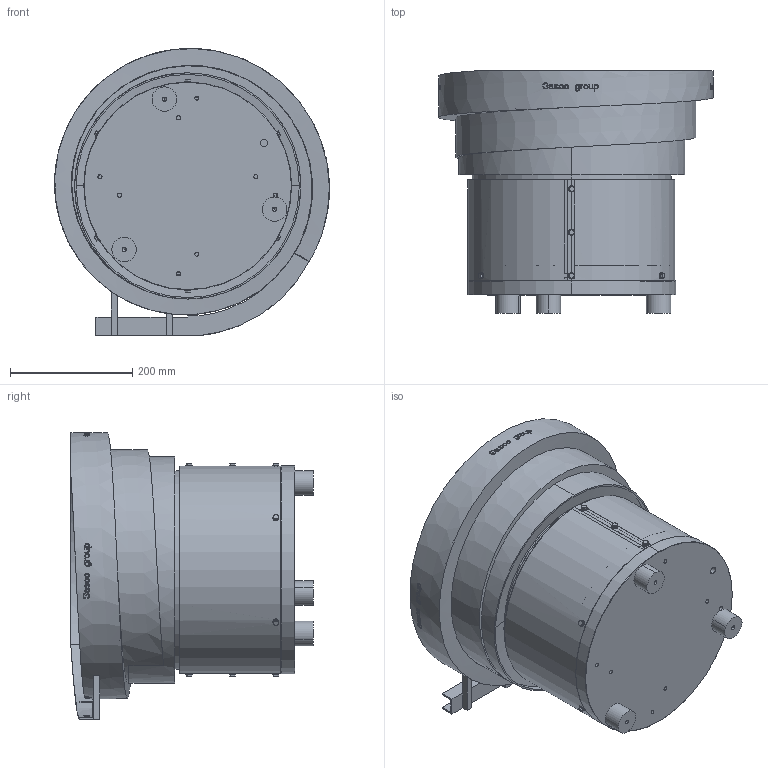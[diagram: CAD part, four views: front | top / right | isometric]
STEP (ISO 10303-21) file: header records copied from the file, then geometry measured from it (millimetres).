
FILE_DESCRIPTION((''),'2;1');
FILE_NAME('3GRA_ANTIORARIO_ASM','2023-02-27T',('massi'),('GASCO S.r.l.'),'CREO PARAMETRIC BY PTC INC, 2015480','CREO PARAMETRIC BY PTC INC, 2015480','');
FILE_SCHEMA(('AUTOMOTIVE_DESIGN { 1 0 10303 214 1 1 1 1 }'));
Length unit declared in the file: millimetre
Products named in the file (3): 3GRA_25_ANTIORARIO; BV35-2; 3GRA_ANTIORARIO_ASM
Assembly tree (2 placements, depth 2):
  3GRA_ANTIORARIO_ASM
    3GRA_25_ANTIORARIO
    BV35-2
Bounding box: 449.29 x 396.32 x 469.14 mm (x, y, z)
Volume: 2656762.8 mm3; surface area: 1685963 mm2
Topology: 44 solids, 45 shells, 3016 faces, 8373 edges, 5452 vertices
Faces by surface type: plane 2451, cylinder 288, cone 144, bspline 105, torus 28
Entity records: 108670 total; most frequent: CARTESIAN_POINT 32760, ORIENTED_EDGE 16690, DIRECTION 11659, EDGE_CURVE 8345, VERTEX_POINT 5452, VECTOR 4209, LINE 4209, AXIS2_PLACEMENT_3D 3725
